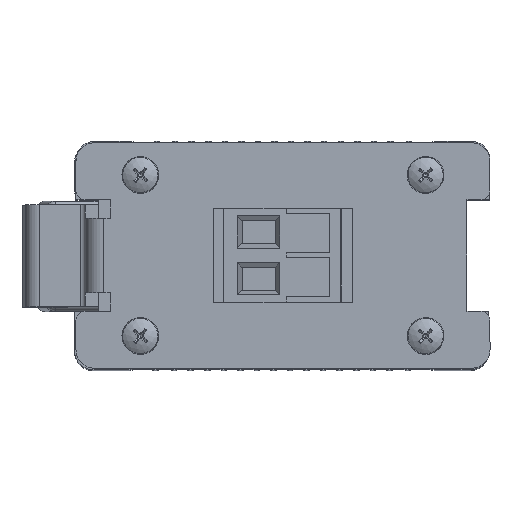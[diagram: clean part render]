
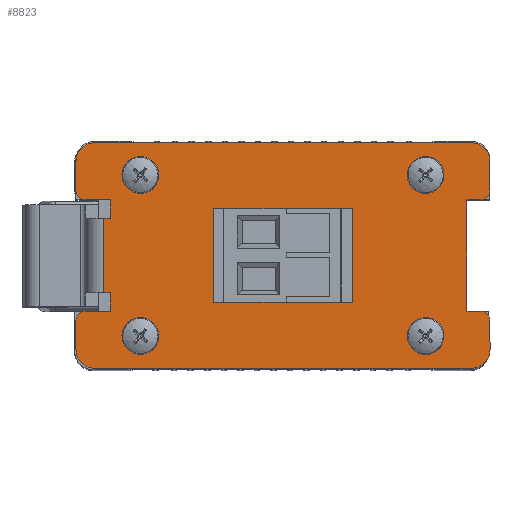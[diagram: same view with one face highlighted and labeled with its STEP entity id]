
A CAD part, top view. The second image highlights one B-rep face of the part: STEP entity #8823.
In plain terms, the highlighted planar face has unit normal (0, 0, 1) as drawn and (0, 0, -1) by its records, which use the part's own axes.
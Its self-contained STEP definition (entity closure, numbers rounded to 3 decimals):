
#162=FACE_BOUND('',#1090,.T.);
#163=FACE_BOUND('',#1091,.T.);
#164=FACE_BOUND('',#1092,.T.);
#165=FACE_BOUND('',#1093,.T.);
#595=FACE_OUTER_BOUND('',#1089,.T.);
#1089=EDGE_LOOP('',(#7068,#7069,#7070,#7071,#7072,#7073,#7074,#7075,#7076,
#7077,#7078,#7079,#7080,#7081,#7082,#7083,#7084,#7085,#7086,#7087,#7088,
#7089,#7090,#7091));
#1090=EDGE_LOOP('',(#7092));
#1091=EDGE_LOOP('',(#7093));
#1092=EDGE_LOOP('',(#7094));
#1093=EDGE_LOOP('',(#7095));
#1898=LINE('',#14040,#2856);
#1902=LINE('',#14052,#2860);
#1911=LINE('',#14072,#2869);
#1912=LINE('',#14074,#2870);
#1913=LINE('',#14078,#2871);
#1914=LINE('',#14082,#2872);
#1915=LINE('',#14086,#2873);
#1916=LINE('',#14090,#2874);
#1917=LINE('',#14092,#2875);
#1918=LINE('',#14094,#2876);
#1919=LINE('',#14098,#2877);
#1920=LINE('',#14102,#2878);
#1921=LINE('',#14106,#2879);
#1922=LINE('',#14110,#2880);
#1923=LINE('',#14111,#2881);
#1924=LINE('',#14112,#2882);
#2856=VECTOR('',#11398,10.);
#2860=VECTOR('',#11408,10.);
#2869=VECTOR('',#11423,10.);
#2870=VECTOR('',#11424,10.);
#2871=VECTOR('',#11427,10.);
#2872=VECTOR('',#11430,10.);
#2873=VECTOR('',#11433,10.);
#2874=VECTOR('',#11436,10.);
#2875=VECTOR('',#11437,10.);
#2876=VECTOR('',#11438,10.);
#2877=VECTOR('',#11441,10.);
#2878=VECTOR('',#11444,10.);
#2879=VECTOR('',#11447,10.);
#2880=VECTOR('',#11450,10.);
#2881=VECTOR('',#11451,10.);
#2882=VECTOR('',#11452,10.);
#3422=CIRCLE('',#9667,1.);
#3423=CIRCLE('',#9668,2.);
#3424=CIRCLE('',#9669,2.);
#3425=CIRCLE('',#9670,1.);
#3426=CIRCLE('',#9671,1.);
#3427=CIRCLE('',#9672,2.);
#3428=CIRCLE('',#9673,2.);
#3429=CIRCLE('',#9674,1.);
#3430=CIRCLE('',#9675,1.6);
#3431=CIRCLE('',#9676,1.6);
#3432=CIRCLE('',#9677,1.6);
#3433=CIRCLE('',#9678,1.6);
#4017=VERTEX_POINT('',#14026);
#4023=VERTEX_POINT('',#14038);
#4026=VERTEX_POINT('',#14048);
#4028=VERTEX_POINT('',#14051);
#4036=VERTEX_POINT('',#14071);
#4037=VERTEX_POINT('',#14073);
#4038=VERTEX_POINT('',#14075);
#4039=VERTEX_POINT('',#14077);
#4040=VERTEX_POINT('',#14079);
#4041=VERTEX_POINT('',#14081);
#4042=VERTEX_POINT('',#14083);
#4043=VERTEX_POINT('',#14085);
#4044=VERTEX_POINT('',#14087);
#4045=VERTEX_POINT('',#14089);
#4046=VERTEX_POINT('',#14091);
#4047=VERTEX_POINT('',#14093);
#4048=VERTEX_POINT('',#14095);
#4049=VERTEX_POINT('',#14097);
#4050=VERTEX_POINT('',#14099);
#4051=VERTEX_POINT('',#14101);
#4052=VERTEX_POINT('',#14103);
#4053=VERTEX_POINT('',#14105);
#4054=VERTEX_POINT('',#14107);
#4055=VERTEX_POINT('',#14109);
#4056=VERTEX_POINT('',#14113);
#4057=VERTEX_POINT('',#14115);
#4058=VERTEX_POINT('',#14117);
#4059=VERTEX_POINT('',#14119);
#5086=EDGE_CURVE('',#4017,#4023,#1898,.T.);
#5091=EDGE_CURVE('',#4028,#4026,#1902,.T.);
#5101=EDGE_CURVE('',#4023,#4036,#1911,.T.);
#5102=EDGE_CURVE('',#4036,#4037,#1912,.T.);
#5103=EDGE_CURVE('',#4038,#4037,#3422,.T.);
#5104=EDGE_CURVE('',#4039,#4038,#1913,.T.);
#5105=EDGE_CURVE('',#4040,#4039,#3423,.T.);
#5106=EDGE_CURVE('',#4041,#4040,#1914,.T.);
#5107=EDGE_CURVE('',#4042,#4041,#3424,.T.);
#5108=EDGE_CURVE('',#4043,#4042,#1915,.T.);
#5109=EDGE_CURVE('',#4044,#4043,#3425,.T.);
#5110=EDGE_CURVE('',#4044,#4045,#1916,.T.);
#5111=EDGE_CURVE('',#4045,#4046,#1917,.T.);
#5112=EDGE_CURVE('',#4046,#4047,#1918,.T.);
#5113=EDGE_CURVE('',#4048,#4047,#3426,.T.);
#5114=EDGE_CURVE('',#4049,#4048,#1919,.T.);
#5115=EDGE_CURVE('',#4050,#4049,#3427,.T.);
#5116=EDGE_CURVE('',#4051,#4050,#1920,.T.);
#5117=EDGE_CURVE('',#4052,#4051,#3428,.T.);
#5118=EDGE_CURVE('',#4053,#4052,#1921,.T.);
#5119=EDGE_CURVE('',#4054,#4053,#3429,.T.);
#5120=EDGE_CURVE('',#4054,#4055,#1922,.T.);
#5121=EDGE_CURVE('',#4055,#4028,#1923,.T.);
#5122=EDGE_CURVE('',#4026,#4017,#1924,.T.);
#5123=EDGE_CURVE('',#4056,#4056,#3430,.T.);
#5124=EDGE_CURVE('',#4057,#4057,#3431,.T.);
#5125=EDGE_CURVE('',#4058,#4058,#3432,.T.);
#5126=EDGE_CURVE('',#4059,#4059,#3433,.T.);
#7068=ORIENTED_EDGE('',*,*,#5086,.T.);
#7069=ORIENTED_EDGE('',*,*,#5101,.T.);
#7070=ORIENTED_EDGE('',*,*,#5102,.T.);
#7071=ORIENTED_EDGE('',*,*,#5103,.F.);
#7072=ORIENTED_EDGE('',*,*,#5104,.F.);
#7073=ORIENTED_EDGE('',*,*,#5105,.F.);
#7074=ORIENTED_EDGE('',*,*,#5106,.F.);
#7075=ORIENTED_EDGE('',*,*,#5107,.F.);
#7076=ORIENTED_EDGE('',*,*,#5108,.F.);
#7077=ORIENTED_EDGE('',*,*,#5109,.F.);
#7078=ORIENTED_EDGE('',*,*,#5110,.T.);
#7079=ORIENTED_EDGE('',*,*,#5111,.T.);
#7080=ORIENTED_EDGE('',*,*,#5112,.T.);
#7081=ORIENTED_EDGE('',*,*,#5113,.F.);
#7082=ORIENTED_EDGE('',*,*,#5114,.F.);
#7083=ORIENTED_EDGE('',*,*,#5115,.F.);
#7084=ORIENTED_EDGE('',*,*,#5116,.F.);
#7085=ORIENTED_EDGE('',*,*,#5117,.F.);
#7086=ORIENTED_EDGE('',*,*,#5118,.F.);
#7087=ORIENTED_EDGE('',*,*,#5119,.F.);
#7088=ORIENTED_EDGE('',*,*,#5120,.T.);
#7089=ORIENTED_EDGE('',*,*,#5121,.T.);
#7090=ORIENTED_EDGE('',*,*,#5091,.T.);
#7091=ORIENTED_EDGE('',*,*,#5122,.T.);
#7092=ORIENTED_EDGE('',*,*,#5123,.T.);
#7093=ORIENTED_EDGE('',*,*,#5124,.T.);
#7094=ORIENTED_EDGE('',*,*,#5125,.T.);
#7095=ORIENTED_EDGE('',*,*,#5126,.T.);
#8429=PLANE('',#9666);
#8823=ADVANCED_FACE('',(#595,#162,#163,#164,#165),#8429,.F.);
#9666=AXIS2_PLACEMENT_3D('',#14070,#11421,#11422);
#9667=AXIS2_PLACEMENT_3D('',#14076,#11425,#11426);
#9668=AXIS2_PLACEMENT_3D('',#14080,#11428,#11429);
#9669=AXIS2_PLACEMENT_3D('',#14084,#11431,#11432);
#9670=AXIS2_PLACEMENT_3D('',#14088,#11434,#11435);
#9671=AXIS2_PLACEMENT_3D('',#14096,#11439,#11440);
#9672=AXIS2_PLACEMENT_3D('',#14100,#11442,#11443);
#9673=AXIS2_PLACEMENT_3D('',#14104,#11445,#11446);
#9674=AXIS2_PLACEMENT_3D('',#14108,#11448,#11449);
#9675=AXIS2_PLACEMENT_3D('',#14114,#11453,#11454);
#9676=AXIS2_PLACEMENT_3D('',#14116,#11455,#11456);
#9677=AXIS2_PLACEMENT_3D('',#14118,#11457,#11458);
#9678=AXIS2_PLACEMENT_3D('',#14120,#11459,#11460);
#11398=DIRECTION('',(1.,0.,0.));
#11408=DIRECTION('',(-1.,0.,0.));
#11421=DIRECTION('center_axis',(0.,0.,1.));
#11422=DIRECTION('ref_axis',(1.,0.,0.));
#11423=DIRECTION('',(0.,1.,0.));
#11424=DIRECTION('',(-1.,0.,0.));
#11425=DIRECTION('center_axis',(0.,0.,1.));
#11426=DIRECTION('ref_axis',(-0.707,-0.707,0.));
#11427=DIRECTION('',(0.,-1.,0.));
#11428=DIRECTION('center_axis',(0.,0.,1.));
#11429=DIRECTION('ref_axis',(-0.707,0.707,0.));
#11430=DIRECTION('',(-1.,0.,0.));
#11431=DIRECTION('center_axis',(0.,0.,1.));
#11432=DIRECTION('ref_axis',(0.707,0.707,0.));
#11433=DIRECTION('',(0.,1.,0.));
#11434=DIRECTION('center_axis',(0.,0.,1.));
#11435=DIRECTION('ref_axis',(0.707,-0.707,0.));
#11436=DIRECTION('',(-1.,0.,0.));
#11437=DIRECTION('',(0.,-1.,0.));
#11438=DIRECTION('',(1.,0.,0.));
#11439=DIRECTION('center_axis',(0.,0.,1.));
#11440=DIRECTION('ref_axis',(0.707,0.707,0.));
#11441=DIRECTION('',(0.,1.,0.));
#11442=DIRECTION('center_axis',(0.,0.,1.));
#11443=DIRECTION('ref_axis',(0.707,-0.707,0.));
#11444=DIRECTION('',(1.,0.,0.));
#11445=DIRECTION('center_axis',(0.,0.,1.));
#11446=DIRECTION('ref_axis',(-0.707,-0.707,0.));
#11447=DIRECTION('',(0.,-1.,0.));
#11448=DIRECTION('center_axis',(0.,0.,1.));
#11449=DIRECTION('ref_axis',(-0.707,0.707,0.));
#11450=DIRECTION('',(1.,0.,0.));
#11451=DIRECTION('',(0.,1.,0.));
#11452=DIRECTION('',(0.,1.,0.));
#11453=DIRECTION('center_axis',(0.,0.,1.));
#11454=DIRECTION('ref_axis',(-1.,0.,0.));
#11455=DIRECTION('center_axis',(0.,0.,1.));
#11456=DIRECTION('ref_axis',(-1.,0.,0.));
#11457=DIRECTION('center_axis',(0.,0.,1.));
#11458=DIRECTION('ref_axis',(-1.,0.,0.));
#11459=DIRECTION('center_axis',(0.,0.,1.));
#11460=DIRECTION('ref_axis',(-1.,0.,0.));
#14026=CARTESIAN_POINT('',(3.,16.3,0.));
#14038=CARTESIAN_POINT('',(3.75,16.3,0.));
#14040=CARTESIAN_POINT('',(11.75,16.3,0.));
#14048=CARTESIAN_POINT('',(3.,8.2,0.));
#14051=CARTESIAN_POINT('',(3.75,8.2,0.));
#14052=CARTESIAN_POINT('',(11.75,8.2,0.));
#14070=CARTESIAN_POINT('Origin',(22.5,12.25,0.));
#14071=CARTESIAN_POINT('',(3.75,18.3,0.));
#14072=CARTESIAN_POINT('',(3.75,12.25,0.));
#14073=CARTESIAN_POINT('',(1.,18.3,0.));
#14074=CARTESIAN_POINT('',(13.125,18.3,0.));
#14075=CARTESIAN_POINT('',(0.,19.3,0.));
#14076=CARTESIAN_POINT('Origin',(1.,19.3,0.));
#14077=CARTESIAN_POINT('',(0.,22.5,0.));
#14078=CARTESIAN_POINT('',(0.,24.5,0.));
#14079=CARTESIAN_POINT('',(2.,24.5,0.));
#14080=CARTESIAN_POINT('Origin',(2.,22.5,0.));
#14081=CARTESIAN_POINT('',(43.,24.5,0.));
#14082=CARTESIAN_POINT('',(45.,24.5,0.));
#14083=CARTESIAN_POINT('',(45.,22.5,0.));
#14084=CARTESIAN_POINT('Origin',(43.,22.5,0.));
#14085=CARTESIAN_POINT('',(45.,19.3,0.));
#14086=CARTESIAN_POINT('',(45.,0.,0.));
#14087=CARTESIAN_POINT('',(44.,18.3,0.));
#14088=CARTESIAN_POINT('Origin',(44.,19.3,0.));
#14089=CARTESIAN_POINT('',(42.5,18.3,0.));
#14090=CARTESIAN_POINT('',(33.75,18.3,0.));
#14091=CARTESIAN_POINT('',(42.5,6.2,0.));
#14092=CARTESIAN_POINT('',(42.5,15.275,0.));
#14093=CARTESIAN_POINT('',(44.,6.2,0.));
#14094=CARTESIAN_POINT('',(32.5,6.2,0.));
#14095=CARTESIAN_POINT('',(45.,5.2,0.));
#14096=CARTESIAN_POINT('Origin',(44.,5.2,0.));
#14097=CARTESIAN_POINT('',(45.,2.,0.));
#14098=CARTESIAN_POINT('',(45.,0.,0.));
#14099=CARTESIAN_POINT('',(43.,0.,0.));
#14100=CARTESIAN_POINT('Origin',(43.,2.,0.));
#14101=CARTESIAN_POINT('',(2.,0.,0.));
#14102=CARTESIAN_POINT('',(0.,0.,0.));
#14103=CARTESIAN_POINT('',(0.,2.,0.));
#14104=CARTESIAN_POINT('Origin',(2.,2.,0.));
#14105=CARTESIAN_POINT('',(0.,5.2,0.));
#14106=CARTESIAN_POINT('',(0.,24.5,0.));
#14107=CARTESIAN_POINT('',(1.,6.2,0.));
#14108=CARTESIAN_POINT('Origin',(1.,5.2,0.));
#14109=CARTESIAN_POINT('',(3.75,6.2,0.));
#14110=CARTESIAN_POINT('',(11.25,6.2,0.));
#14111=CARTESIAN_POINT('',(3.75,12.25,0.));
#14112=CARTESIAN_POINT('',(3.,9.475,0.));
#14113=CARTESIAN_POINT('',(8.6,21.,0.));
#14114=CARTESIAN_POINT('Origin',(7.,21.,0.));
#14115=CARTESIAN_POINT('',(39.6,21.,0.));
#14116=CARTESIAN_POINT('Origin',(38.,21.,0.));
#14117=CARTESIAN_POINT('',(8.6,3.5,0.));
#14118=CARTESIAN_POINT('Origin',(7.,3.5,0.));
#14119=CARTESIAN_POINT('',(39.6,3.5,0.));
#14120=CARTESIAN_POINT('Origin',(38.,3.5,0.));
